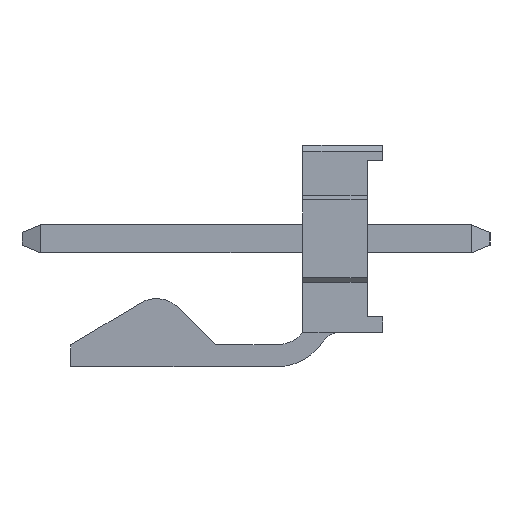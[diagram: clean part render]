
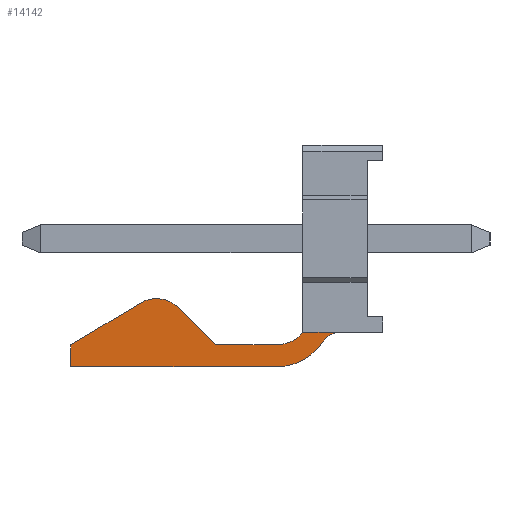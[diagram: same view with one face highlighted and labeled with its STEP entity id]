
A CAD part, left-side view. The second image highlights one B-rep face of the part: STEP entity #14142.
In plain terms, the highlighted planar face has unit normal (-0.999, 0.039, 0).
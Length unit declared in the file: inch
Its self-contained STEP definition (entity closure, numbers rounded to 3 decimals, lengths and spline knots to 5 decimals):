
#4575=CARTESIAN_POINT('',(-0.59277,0.00556,-0.15));
#4576=CARTESIAN_POINT('',(-0.59256,0.01101,-0.15));
#4577=CARTESIAN_POINT('',(-0.59219,0.02042,
-0.15274));
#4578=CARTESIAN_POINT('',(-0.59191,0.02782,
-0.15917));
#4579=CARTESIAN_POINT('',(-0.59179,0.03077,-0.16375));
#4581=CARTESIAN_POINT('',(-0.59179,0.03077,-0.16375));
#4582=CARTESIAN_POINT('',(-0.59145,0.03964,
-0.1775));
#4583=CARTESIAN_POINT('',(-0.59058,0.06184,
-0.19679));
#4584=CARTESIAN_POINT('',(-0.58949,0.09007,-0.205));
#4585=CARTESIAN_POINT('',(-0.58885,0.10643,-0.205));
#4587=DIRECTION('',(0.039,0.999,0.));
#4588=VECTOR('',#4587,0.32982);
#4589=CARTESIAN_POINT('',(-0.58885,0.10643,-0.205));
#4590=LINE('',#4589,#4588);
#4591=DIRECTION('',(0.,0.,1.));
#4592=VECTOR('',#4591,0.035);
#4593=CARTESIAN_POINT('',(-0.57605,0.436,-0.205));
#4594=LINE('',#4593,#4592);
#4595=DIRECTION('',(-0.033,-0.857,0.514));
#4596=VECTOR('',#4595,0.13017);
#4597=CARTESIAN_POINT('',(-0.57605,0.436,-0.17));
#4598=LINE('',#4597,#4596);
#4599=CARTESIAN_POINT('',(-0.58038,0.32442,
-0.10311));
#4600=CARTESIAN_POINT('',(-0.5806,0.31884,
-0.09977));
#4601=CARTESIAN_POINT('',(-0.58102,0.30805,
-0.09604));
#4602=CARTESIAN_POINT('',(-0.58162,0.2925,
-0.0956));
#4603=CARTESIAN_POINT('',(-0.5822,0.27752,
-0.0998));
#4604=CARTESIAN_POINT('',(-0.58258,0.26795,
-0.10605));
#4605=CARTESIAN_POINT('',(-0.58275,0.26336,
-0.11064));
#4607=DIRECTION('',(-0.027,-0.707,-0.707));
#4608=VECTOR('',#4607,0.08397);
#4609=CARTESIAN_POINT('',(-0.58275,0.26336,
-0.11064));
#4610=LINE('',#4609,#4608);
#4611=DIRECTION('',(-0.039,-0.999,0.));
#4612=VECTOR('',#4611,0.09765);
#4613=CARTESIAN_POINT('',(-0.58506,0.204,-0.17));
#4614=LINE('',#4613,#4612);
#4615=CARTESIAN_POINT('',(-0.58885,0.10643,-0.17));
#4616=CARTESIAN_POINT('',(-0.58919,0.09779,-0.17));
#4617=CARTESIAN_POINT('',(-0.58979,0.08231,
-0.16617));
#4618=CARTESIAN_POINT('',(-0.59029,0.0695,
-0.15667));
#4619=CARTESIAN_POINT('',(-0.5905,0.064,-0.15));
#4621=DIRECTION('',(-0.039,-0.999,0.));
#4622=VECTOR('',#4621,0.05849);
#4623=CARTESIAN_POINT('',(-0.5905,0.064,-0.15));
#4624=LINE('',#4623,#4622);
#6765=VERTEX_POINT('',#4575);
#6766=VERTEX_POINT('',#4579);
#6767=VERTEX_POINT('',#4585);
#6768=CARTESIAN_POINT('',(-0.57605,0.436,-0.205));
#6769=VERTEX_POINT('',#6768);
#6770=CARTESIAN_POINT('',(-0.57605,0.436,-0.17));
#6771=VERTEX_POINT('',#6770);
#6772=CARTESIAN_POINT('',(-0.58038,0.32442,
-0.10311));
#6773=VERTEX_POINT('',#6772);
#6774=CARTESIAN_POINT('',(-0.58275,0.26336,
-0.11064));
#6775=CARTESIAN_POINT('',(-0.58506,0.204,-0.17));
#6776=VERTEX_POINT('',#6774);
#6777=VERTEX_POINT('',#6775);
#6778=CARTESIAN_POINT('',(-0.58885,0.10643,-0.17));
#6779=VERTEX_POINT('',#6778);
#6780=VERTEX_POINT('',#4619);
#14125=CARTESIAN_POINT('',(-0.5905,0.064,1.01637));
#14126=DIRECTION('',(0.999,-0.039,0.));
#14127=DIRECTION('',(0.,0.,1.));
#14128=AXIS2_PLACEMENT_3D('',#14125,#14126,#14127);
#14129=PLANE('',#14128);
#14130=ORIENTED_EDGE('',*,*,#14022,.T.);
#14131=ORIENTED_EDGE('',*,*,#14036,.T.);
#14132=ORIENTED_EDGE('',*,*,#14050,.T.);
#14133=ORIENTED_EDGE('',*,*,#14064,.T.);
#14134=ORIENTED_EDGE('',*,*,#14078,.T.);
#14135=ORIENTED_EDGE('',*,*,#14092,.T.);
#14136=ORIENTED_EDGE('',*,*,#14106,.T.);
#14137=ORIENTED_EDGE('',*,*,#14119,.T.);
#14138=ORIENTED_EDGE('',*,*,#8533,.T.);
#14139=ORIENTED_EDGE('',*,*,#14007,.T.);
#14140=EDGE_LOOP('',(#14130,#14131,#14132,#14133,#14134,#14135,#14136,#14137,
#14138,#14139));
#14141=FACE_OUTER_BOUND('',#14140,.F.);
#14142=ADVANCED_FACE('',(#14141),#14129,.F.);
#4580=B_SPLINE_CURVE_WITH_KNOTS('',3,(#4575,#4576,#4577,#4578,#4579),
.UNSPECIFIED.,.F.,.F.,(4,1,4),(0.,0.5,1.),.UNSPECIFIED.);
#4586=B_SPLINE_CURVE_WITH_KNOTS('',3,(#4581,#4582,#4583,#4584,#4585),
.UNSPECIFIED.,.F.,.F.,(4,1,4),(0.,0.5,1.),.UNSPECIFIED.);
#4606=B_SPLINE_CURVE_WITH_KNOTS('',3,(#4599,#4600,#4601,#4602,#4603,#4604,
#4605),.UNSPECIFIED.,.F.,.F.,(4,1,1,1,4),(0.,0.25,0.5,0.75,1.),
.UNSPECIFIED.);
#4620=B_SPLINE_CURVE_WITH_KNOTS('',3,(#4615,#4616,#4617,#4618,#4619),
.UNSPECIFIED.,.F.,.F.,(4,1,4),(0.,0.5,1.),.UNSPECIFIED.);
#8533=EDGE_CURVE('',#6779,#6780,#4620,.T.);
#14007=EDGE_CURVE('',#6780,#6765,#4624,.T.);
#14022=EDGE_CURVE('',#6765,#6766,#4580,.T.);
#14036=EDGE_CURVE('',#6766,#6767,#4586,.T.);
#14050=EDGE_CURVE('',#6767,#6769,#4590,.T.);
#14064=EDGE_CURVE('',#6769,#6771,#4594,.T.);
#14078=EDGE_CURVE('',#6771,#6773,#4598,.T.);
#14092=EDGE_CURVE('',#6773,#6776,#4606,.T.);
#14106=EDGE_CURVE('',#6776,#6777,#4610,.T.);
#14119=EDGE_CURVE('',#6777,#6779,#4614,.T.);
